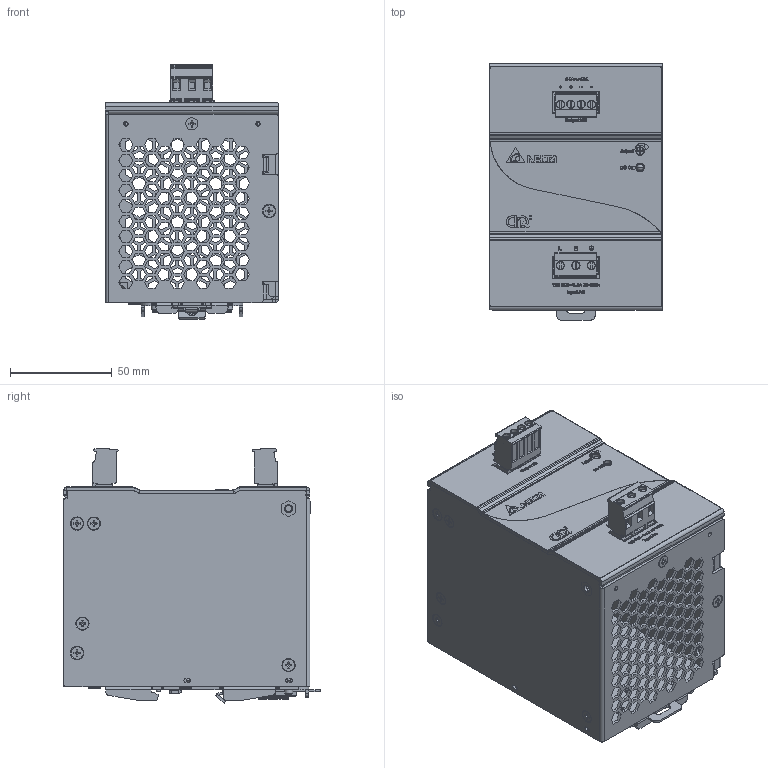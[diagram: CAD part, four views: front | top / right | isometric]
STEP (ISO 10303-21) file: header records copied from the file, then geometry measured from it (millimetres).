
FILE_DESCRIPTION((''),'2;1');
FILE_NAME('DRP024V240W1BA_ASM','2012-04-24T',('Manop.Pr'),(''),'PRO/ENGINEER BY PARAMETRIC TECHNOLOGY CORPORATION, 2010180','PRO/ENGINEER BY PARAMETRIC TECHNOLOGY CORPORATION, 2010180','');
FILE_SCHEMA(('CONFIG_CONTROL_DESIGN','SHAPE_APPEARANCE_LAYERS_GROUPS'));
Products named in the file (32): 330307940202; 330307950101; 330307950101_A_STUD_6-32; 330307950101_ASM; 330307960000; 326353660202; 3268209100; 3202315200; 3461303000; 3460088100; 3462026200; ASSY_LATCH_50X100_ASM; 2958045105_PWB; 346142080000; EE_VR550_0604102205; 2968118802_DCT-1188; 3070487546; 3051627246; EE_LED_2300074506; ASSY_DCT-1188_ASM; ASSY_PWB_MAIN_ASM; 2968118603_DCT-1186; 2968118702_DCT-187; 3071616046; 3050252046; ASSY_DCT-1187_ASM; ASSY_DCT-1186_ASM; 310000040000; 310000060000; 310503910000; 3100020600; DRP024V240W1BA_ASM
Assembly tree (52 placements, depth 4):
  DRP024V240W1BA_ASM
    330307940202
    330307950101_ASM
      330307950101
      330307950101_A_STUD_6-32
    330307960000
    326353660202
    3268209100
    3202315200
    ASSY_LATCH_50X100_ASM
      3461303000
      3460088100
      3462026200
    ASSY_PWB_MAIN_ASM
      2958045105_PWB
      346142080000  x4
      EE_VR550_0604102205
      ASSY_DCT-1188_ASM
        2968118802_DCT-1188
        3070487546
        3051627246
        EE_LED_2300074506
    ASSY_DCT-1186_ASM
      2968118603_DCT-1186
      ASSY_DCT-1187_ASM
        2968118702_DCT-187
        3071616046
        3050252046
      346142080000  x3
    310000040000
    310000060000  x12
    310503910000  x2
    3100020600  x4
Bounding box: 85.1 x 126 x 125.22 mm (x, y, z)
Volume: 147439.1 mm3; surface area: 230304.5 mm2
Topology: 52 solids, 52 shells, 6180 faces, 16414 edges, 10506 vertices
Faces by surface type: plane 4100, cylinder 916, extrusion 635, cone 235, bspline 180, torus 96, sphere 18
Entity records: 232092 total; most frequent: CARTESIAN_POINT 47243, ORIENTED_EDGE 29396, DIRECTION 25452, PRESENTATION_STYLE_ASSIGNMENT 14965, EDGE_CURVE 14698, STYLED_ITEM 14648, CURVE_STYLE 14578, VECTOR 11786
